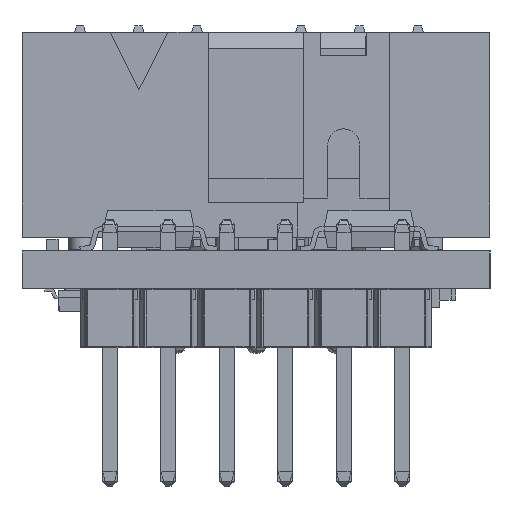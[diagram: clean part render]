
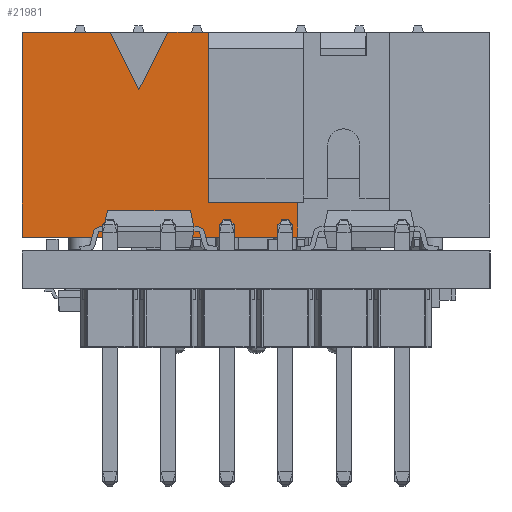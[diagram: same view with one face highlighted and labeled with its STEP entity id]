
A CAD part, left-side view. The second image highlights one B-rep face of the part: STEP entity #21981.
In plain terms, the highlighted free-form (B-spline) face has degree [1, 1] with [2, 2] control points.
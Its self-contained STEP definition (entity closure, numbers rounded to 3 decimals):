
#19654 = VERTEX_POINT('',#19655);
#19655 = CARTESIAN_POINT('',(-3.83,-4.45,0.));
#19660 = EDGE_CURVE('',#19654,#19661,#19663,.T.);
#19661 = VERTEX_POINT('',#19662);
#19662 = CARTESIAN_POINT('',(-5.08,-4.45,-2.5));
#19663 = B_SPLINE_CURVE_WITH_KNOTS('',1,(#19664,#19665),.UNSPECIFIED.,
  .F.,.F.,(2,2),(0.,9.317),.PIECEWISE_BEZIER_KNOTS.);
#19664 = CARTESIAN_POINT('',(-3.83,-4.45,0.));
#19665 = CARTESIAN_POINT('',(-5.08,-4.45,-2.5));
#19703 = EDGE_CURVE('',#19661,#19704,#19706,.T.);
#19704 = VERTEX_POINT('',#19705);
#19705 = CARTESIAN_POINT('',(-6.33,-4.45,0.));
#19706 = B_SPLINE_CURVE_WITH_KNOTS('',1,(#19707,#19708),.UNSPECIFIED.,
  .F.,.F.,(2,2),(0.,9.317),.PIECEWISE_BEZIER_KNOTS.);
#19707 = CARTESIAN_POINT('',(-5.08,-4.45,-2.5));
#19708 = CARTESIAN_POINT('',(-6.33,-4.45,0.));
#20814 = VERTEX_POINT('',#20815);
#20815 = CARTESIAN_POINT('',(-2.05,-4.45,-7.4));
#20820 = EDGE_CURVE('',#20814,#20821,#20823,.T.);
#20821 = VERTEX_POINT('',#20822);
#20822 = CARTESIAN_POINT('',(-2.05,-4.45,0.));
#20823 = B_SPLINE_CURVE_WITH_KNOTS('',1,(#20824,#20825),.UNSPECIFIED.,
  .F.,.F.,(2,2),(0.,3.7),.PIECEWISE_BEZIER_KNOTS.);
#20824 = CARTESIAN_POINT('',(-2.05,-4.45,-7.4));
#20825 = CARTESIAN_POINT('',(-2.05,-4.45,0.));
#21165 = VERTEX_POINT('',#21166);
#21166 = CARTESIAN_POINT('',(-10.16,-4.45,0.));
#21171 = EDGE_CURVE('',#19704,#21165,#21172,.T.);
#21172 = B_SPLINE_CURVE_WITH_KNOTS('',1,(#21173,#21174),.UNSPECIFIED.,
  .F.,.F.,(2,2),(1.853,2.283),
  .PIECEWISE_BEZIER_KNOTS.);
#21173 = CARTESIAN_POINT('',(-6.33,-4.45,0.));
#21174 = CARTESIAN_POINT('',(-10.16,-4.45,0.));
#21179 = EDGE_CURVE('',#20821,#19654,#21180,.T.);
#21180 = B_SPLINE_CURVE_WITH_KNOTS('',1,(#21181,#21182),.UNSPECIFIED.,
  .F.,.F.,(2,2),(1.372,1.572),
  .PIECEWISE_BEZIER_KNOTS.);
#21181 = CARTESIAN_POINT('',(-2.05,-4.45,0.));
#21182 = CARTESIAN_POINT('',(-3.83,-4.45,0.));
#21517 = VERTEX_POINT('',#21518);
#21518 = CARTESIAN_POINT('',(-10.16,-4.45,-8.9));
#21523 = EDGE_CURVE('',#21517,#21165,#21524,.T.);
#21524 = B_SPLINE_CURVE_WITH_KNOTS('',1,(#21525,#21526),.UNSPECIFIED.,
  .F.,.F.,(2,2),(0.,1.),.PIECEWISE_BEZIER_KNOTS.);
#21525 = CARTESIAN_POINT('',(-10.16,-4.45,-8.9));
#21526 = CARTESIAN_POINT('',(-10.16,-4.45,0.));
#21554 = VERTEX_POINT('',#21555);
#21555 = CARTESIAN_POINT('',(1.81,-4.45,-8.9));
#21560 = EDGE_CURVE('',#21517,#21554,#21561,.T.);
#21561 = B_SPLINE_CURVE_WITH_KNOTS('',1,(#21562,#21563),.UNSPECIFIED.,
  .F.,.F.,(2,2),(0.,1.345),.PIECEWISE_BEZIER_KNOTS.);
#21562 = CARTESIAN_POINT('',(-10.16,-4.45,-8.9));
#21563 = CARTESIAN_POINT('',(1.81,-4.45,-8.9));
#21947 = VERTEX_POINT('',#21948);
#21948 = CARTESIAN_POINT('',(1.81,-4.45,-7.4));
#21953 = EDGE_CURVE('',#21947,#20814,#21954,.T.);
#21954 = B_SPLINE_CURVE_WITH_KNOTS('',1,(#21955,#21956),.UNSPECIFIED.,
  .F.,.F.,(2,2),(0.059,1.),.PIECEWISE_BEZIER_KNOTS.);
#21955 = CARTESIAN_POINT('',(1.81,-4.45,-7.4));
#21956 = CARTESIAN_POINT('',(-2.05,-4.45,-7.4));
#21972 = EDGE_CURVE('',#21554,#21947,#21973,.T.);
#21973 = B_SPLINE_CURVE_WITH_KNOTS('',1,(#21974,#21975),.UNSPECIFIED.,
  .F.,.F.,(2,2),(1.85,2.225),.PIECEWISE_BEZIER_KNOTS.);
#21974 = CARTESIAN_POINT('',(1.81,-4.45,-8.9));
#21975 = CARTESIAN_POINT('',(1.81,-4.45,-7.4));
#21981 = ADVANCED_FACE('',(#21982),#21993,.T.);
#21982 = FACE_BOUND('',#21983,.T.);
#21983 = EDGE_LOOP('',(#21984,#21985,#21986,#21987,#21988,#21989,#21990,
    #21991,#21992));
#21984 = ORIENTED_EDGE('',*,*,#21972,.T.);
#21985 = ORIENTED_EDGE('',*,*,#21953,.T.);
#21986 = ORIENTED_EDGE('',*,*,#20820,.T.);
#21987 = ORIENTED_EDGE('',*,*,#21179,.T.);
#21988 = ORIENTED_EDGE('',*,*,#19660,.T.);
#21989 = ORIENTED_EDGE('',*,*,#19703,.T.);
#21990 = ORIENTED_EDGE('',*,*,#21171,.T.);
#21991 = ORIENTED_EDGE('',*,*,#21523,.F.);
#21992 = ORIENTED_EDGE('',*,*,#21560,.T.);
#21993 = B_SPLINE_SURFACE_WITH_KNOTS('',1,1,(
    (#21994,#21995)
    ,(#21996,#21997
    )),.UNSPECIFIED.,.F.,.F.,.F.,(2,2),(2,2),(0.,2.283),(0.,1.)
  ,.PIECEWISE_BEZIER_KNOTS.);
#21994 = CARTESIAN_POINT('',(-10.16,-4.45,-8.9));
#21995 = CARTESIAN_POINT('',(-10.16,-4.45,0.));
#21996 = CARTESIAN_POINT('',(10.16,-4.45,-8.9));
#21997 = CARTESIAN_POINT('',(10.16,-4.45,0.));
